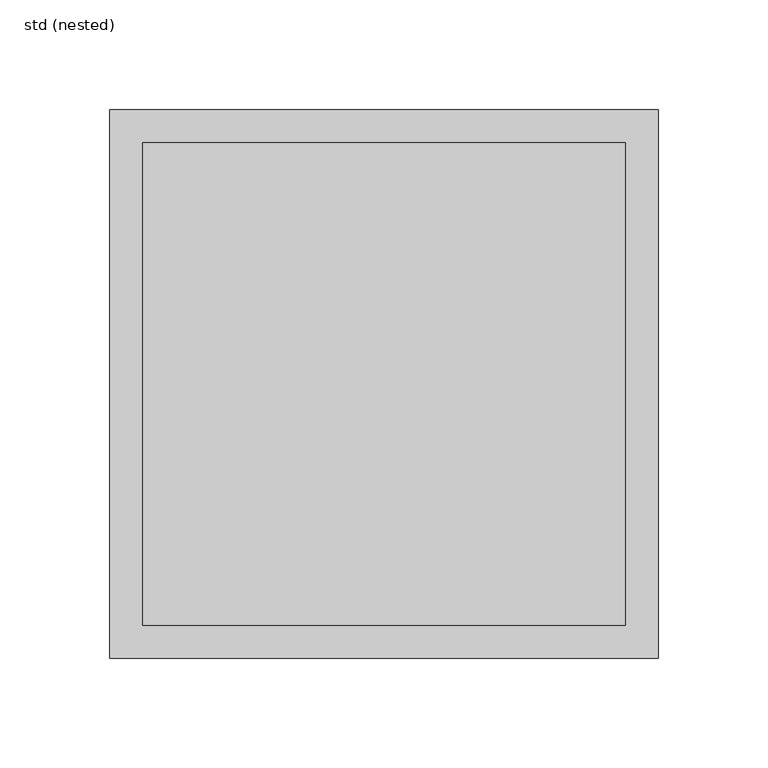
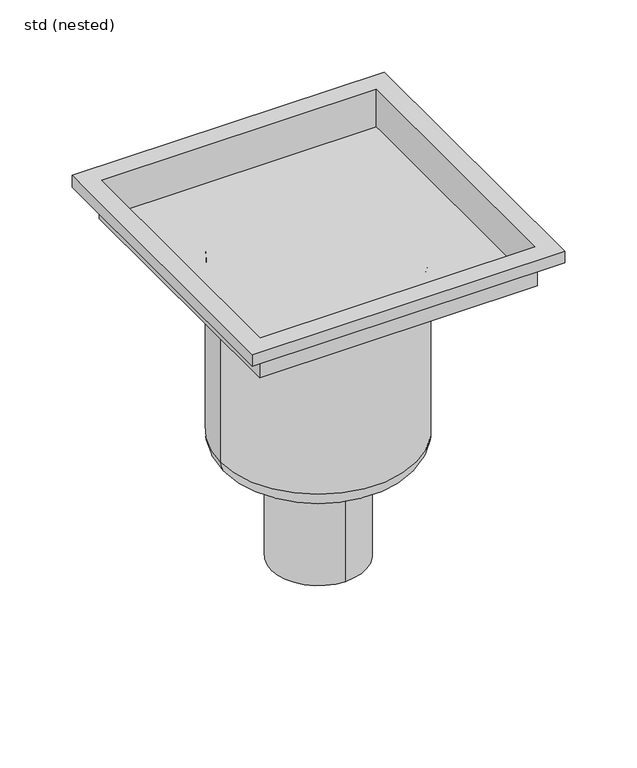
"""IFC4 building model written with IfcOpenShell, lengths in millimetres: sanitary terminal geometry, ZZZ_do not use_PF_ST_UN_fixed height hygienic gully_ACO : std (nested)."""

from ifc_helpers import new_model, si_unit, point, frame, origin, place, context, project, spatial, circle_curve, ellipse_curve, trimmed, source, transform, mapped, element, save
from ifc_brep_helpers import plane_surface, cylinder_surface, revolved_surface, advanced_brep


def std_nested_d4b4db04(model_context):
    return source(origin(), model_context, "Body", "AdvancedBrep", [
        advanced_brep(
        [(78.5, 0.0, -183.0), (-78.5, 0.0, -183.0), (-78.5, 0.0, -33.0), (78.5, 0.0, -33.0), (63.5, 0.0, -198.0), (-63.5, 0.0, -198.0), (37.5, 0.0, -198.0), (0.0, 37.5, -198.0), (-37.5, 0.0, -198.0), (0.0, -37.5, -198.0), (0.0, -37.5, -289.0), (0.0, 37.5, -289.0), (125.0, 125.0, -10.0), (125.0, -125.0, -10.0), (-125.0, -125.0, -10.0), (-125.0, 125.0, -10.0), (111.25, 111.25, -10.0), (-111.25, 111.25, -10.0), (-111.25, -111.25, -10.0), (111.25, -111.25, -10.0), (125.0, 125.0, 0.0), (-125.0, 125.0, 0.0), (-125.0, -125.0, 0.0), (125.0, -125.0, 0.0), (110.0, 110.0, 0.0), (110.0, -110.0, 0.0), (-110.0, -110.0, 0.0), (-110.0, 110.0, 0.0), (110.0, 110.0, -31.75), (110.0, -110.0, -31.75), (-110.0, -110.0, -31.75), (-110.0, 110.0, -31.75), (111.25, 111.25, -33.0), (111.25, -111.25, -33.0), (-111.25, -111.25, -33.0), (-111.25, 111.25, -33.0), (-111.25, 111.25, -31.75), (111.25, 111.25, -31.75), (-111.25, -111.25, -31.75), (111.25, -111.25, -31.75)],
        [
            (0, 1, circle_curve(frame((0.0, 0.0, -183.0), z_axis=(0.0, 0.0, 1.0), x_axis=(-1.0, 0.0, 0.0)), 78.5)),
            (1, 2),
            (2, 3, circle_curve(frame((0.0, 0.0, -33.0), z_axis=(0.0, 0.0, -1.0), x_axis=(-1.0, 0.0, 0.0)), 78.5)),
            (3, 0),
            (1, 0, circle_curve(frame((0.0, 0.0, -183.0), z_axis=(0.0, 0.0, 1.0), x_axis=(-1.0, 0.0, 0.0)), 78.5)),
            (3, 2, circle_curve(frame((0.0, 0.0, -33.0), z_axis=(0.0, 0.0, -1.0), x_axis=(-1.0, 0.0, 0.0)), 78.5)),
            (0, 4, circle_curve(frame((63.5, 0.0, -183.0), z_axis=(0.0, 1.0, 0.0), x_axis=(-1.0, 0.0, 0.0)), 15.0)),
            (4, 5, circle_curve(frame((0.0, 0.0, -198.0), z_axis=(0.0, 0.0, 1.0), x_axis=(-1.0, 0.0, 0.0)), 63.5)),
            (5, 1, circle_curve(frame((-63.5, 0.0, -183.0), z_axis=(0.0, 1.0, 0.0), x_axis=(1.0, 0.0, 0.0)), 15.0)),
            (5, 4, circle_curve(frame((0.0, 0.0, -198.0), z_axis=(0.0, 0.0, 1.0), x_axis=(-1.0, 0.0, 0.0)), 63.5)),
            (4, 6),
            (6, 7, circle_curve(frame((0.0, 0.0, -198.0), z_axis=(0.0, 0.0, 1.0), x_axis=(0.0, 1.0, 0.0)), 37.5)),
            (7, 8, circle_curve(frame((0.0, 0.0, -198.0), z_axis=(0.0, 0.0, 1.0), x_axis=(0.0, 1.0, 0.0)), 37.5)),
            (8, 5),
            (8, 9, circle_curve(frame((0.0, 0.0, -198.0), z_axis=(0.0, 0.0, 1.0), x_axis=(0.0, 1.0, 0.0)), 37.5)),
            (9, 6, circle_curve(frame((0.0, 0.0, -198.0), z_axis=(0.0, 0.0, 1.0), x_axis=(0.0, 1.0, 0.0)), 37.5)),
            (10, 11, circle_curve(frame((0.0, 0.0, -289.0), z_axis=(0.0, 0.0, -1.0), x_axis=(0.0, 1.0, 0.0)), 37.5)),
            (11, 10, circle_curve(frame((0.0, 0.0, -289.0), z_axis=(0.0, 0.0, -1.0), x_axis=(0.0, 1.0, 0.0)), 37.5)),
            (10, 9),
            (7, 11),
            (12, 13),
            (13, 14),
            (14, 15),
            (15, 12),
            (16, 17),
            (17, 18),
            (18, 19),
            (19, 16),
            (20, 21),
            (21, 22),
            (22, 23),
            (23, 20),
            (24, 25),
            (25, 26),
            (26, 27),
            (27, 24),
            (15, 21),
            (20, 12),
            (14, 22),
            (13, 23),
            (24, 28),
            (28, 29),
            (29, 25),
            (29, 30),
            (30, 26),
            (30, 31),
            (31, 27),
            (31, 28),
            (32, 33),
            (33, 34),
            (34, 35),
            (35, 32),
            (35, 36),
            (36, 17),
            (16, 37),
            (37, 32),
            (34, 38),
            (38, 18),
            (33, 39),
            (39, 19),
        ],
        [
            cylinder_surface(frame((0.0, 0.0, 60.0), z_axis=(0.0, 0.0, -1.0), x_axis=(-1.0, 0.0, 0.0)), 78.5),
            revolved_surface(trimmed(ellipse_curve(frame((-63.5, 0.0, -183.0), z_axis=(0.0, -1.0, 0.0), x_axis=(1.0, 0.0, 0.0)), 15.0, 15.0), [point((-78.5, 0.0, -183.0))], [point((-63.5, 0.0, -198.0))], True, "CARTESIAN"), (0.0, 0.0, 60.0), (0.0, 0.0, -1.0)),
            plane_surface(frame((0.0, 0.0, -198.0), z_axis=(0.0, 0.0, -1.0), x_axis=(-1.0, 0.0, 0.0))),
            plane_surface(frame((0.0, 37.5, -289.0), z_axis=(0.0, 0.0, -1.0), x_axis=(1.0, 0.0, 0.0))),
            cylinder_surface(frame((0.0, 0.0, -198.0), z_axis=(0.0, 0.0, -1.0), x_axis=(0.0, 1.0, 0.0)), 37.5),
            plane_surface(frame((-125.0, 125.0, -10.0), z_axis=(0.0, 0.0, -1.0), x_axis=(1.0, 0.0, 0.0))),
            plane_surface(frame((-125.0, 125.0, 0.0), z_axis=(0.0, 0.0, 1.0), x_axis=(-1.0, 0.0, 0.0))),
            plane_surface(frame((125.0, 125.0, 0.0), z_axis=(0.0, 1.0, 0.0), x_axis=(0.0, 0.0, -1.0))),
            plane_surface(frame((-125.0, 125.0, 0.0), z_axis=(-1.0, 0.0, 0.0), x_axis=(0.0, 0.0, -1.0))),
            plane_surface(frame((-125.0, -125.0, 0.0), z_axis=(0.0, -1.0, 0.0), x_axis=(0.0, 0.0, -1.0))),
            plane_surface(frame((125.0, -125.0, 0.0), z_axis=(1.0, 0.0, 0.0), x_axis=(0.0, 0.0, -1.0))),
            plane_surface(frame((110.0, 110.0, 0.0), z_axis=(-1.0, 0.0, 0.0), x_axis=(0.0, 0.0, -1.0))),
            plane_surface(frame((110.0, -110.0, 0.0), z_axis=(0.0, 1.0, 0.0), x_axis=(0.0, 0.0, -1.0))),
            plane_surface(frame((-110.0, -110.0, 0.0), z_axis=(1.0, 0.0, 0.0), x_axis=(0.0, 0.0, -1.0))),
            plane_surface(frame((-110.0, 110.0, 0.0), z_axis=(0.0, -1.0, 0.0), x_axis=(0.0, 0.0, -1.0))),
            plane_surface(frame((-111.25, 111.25, -33.0), z_axis=(0.0, 0.0, -1.0), x_axis=(1.0, 0.0, 0.0))),
            plane_surface(frame((111.25, 111.25, -10.0), z_axis=(0.0, 1.0, 0.0), x_axis=(0.0, 0.0, -1.0))),
            plane_surface(frame((-111.25, 111.25, -10.0), z_axis=(-1.0, 0.0, 0.0), x_axis=(0.0, 0.0, -1.0))),
            plane_surface(frame((-111.25, -111.25, -10.0), z_axis=(0.0, -1.0, 0.0), x_axis=(0.0, 0.0, -1.0))),
            plane_surface(frame((111.25, -111.25, -10.0), z_axis=(1.0, 0.0, 0.0), x_axis=(0.0, 0.0, -1.0))),
            plane_surface(frame((-111.25, 111.25, -31.75), z_axis=(0.0, 0.0, 1.0), x_axis=(-1.0, 0.0, 0.0))),
        ],
        [
            (0, [[1, 2, 3, 4]]),
            (0, [[-2, 5, -4, 6]]),
            (1, [[-1, 7, 8, 9]]),
            (1, [[-5, -9, 10, -7]]),
            (2, [[-8, 11, 12, 13, 14]]),
            (2, [[-10, -14, 15, 16, -11]]),
            (3, [[17, 18]]),
            (4, [[-17, 19, -15, -13, 20]]),
            (4, [[-18, -20, -12, -16, -19]]),
            (5, [[21, 22, 23, 24], [25, 26, 27, 28]]),
            (6, [[29, 30, 31, 32], [33, 34, 35, 36]]),
            (7, [[-24, 37, -29, 38]]),
            (8, [[-23, 39, -30, -37]]),
            (9, [[-22, 40, -31, -39]]),
            (10, [[-21, -38, -32, -40]]),
            (11, [[-33, 41, 42, 43]]),
            (12, [[-34, -43, 44, 45]]),
            (13, [[-35, -45, 46, 47]]),
            (14, [[-36, -47, 48, -41]]),
            (15, [[49, 50, 51, 52], [-3, -6]]),
            (16, [[-52, 53, 54, -25, 55, 56]]),
            (17, [[-51, 57, 58, -26, -54, -53]]),
            (18, [[-50, 59, 60, -27, -58, -57]]),
            (19, [[-49, -56, -55, -28, -60, -59]]),
            (20, [[-42, -48, -46, -44]]),
        ],
    ),
    ])


if __name__ == "__main__":
    model = new_model("IFC4")
    model_context = context("Model", 3, world=origin())
    ifc_project = project(units=[si_unit("LENGTHUNIT", "METRE", prefix="MILLI")], contexts=[model_context])
    site = spatial("IfcSite", under=ifc_project)
    building = spatial("IfcBuilding", under=site)
    placement = place(None, origin())
    std_nested_shape = std_nested_d4b4db04(model_context)
    element("IfcSanitaryTerminal", 1, ObjectType="ZZZ_do not use_PF_ST_UN_fixed height hygienic gully_ACO : std (nested)", at=placement, inside=building, context=model_context, shape_type="MappedRepresentation", body=[
        mapped(std_nested_shape, transform((0.0, 0.0, 0.0), x_axis=(1.0, 0.0, 0.0), y_axis=(0.0, 1.0, 0.0), z_axis=(0.0, 0.0, 1.0))),
    ])
    save(model, "model.ifc")
